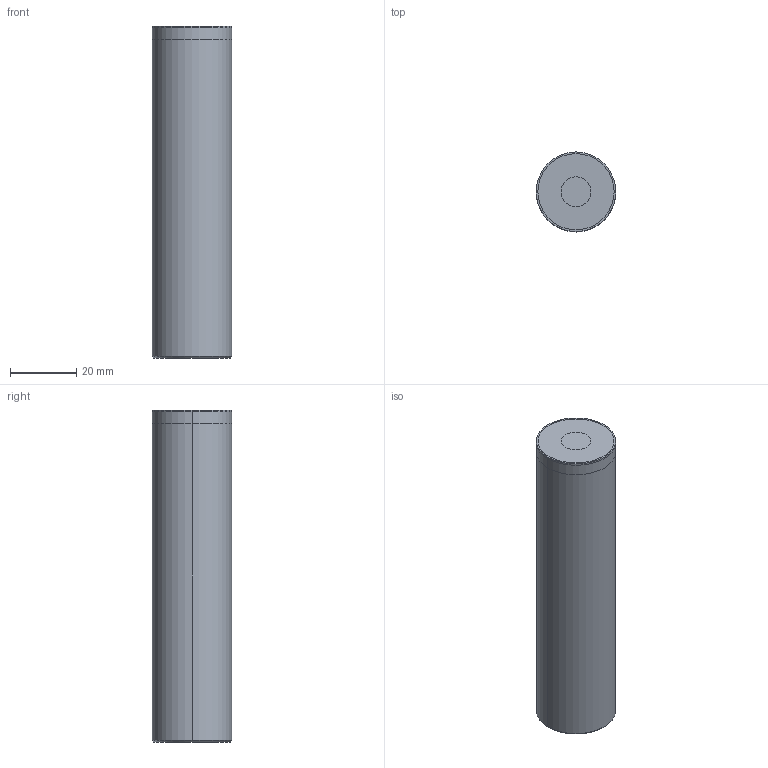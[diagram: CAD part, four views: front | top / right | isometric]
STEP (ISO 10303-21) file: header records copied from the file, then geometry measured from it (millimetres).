
FILE_DESCRIPTION (( 'STEP AP214' ), '1' );
FILE_NAME ('BruyRubio_BRSP_24_X_100.STEP', '2020-01-15T07:47:01', ( '' ), ( '' ), 'SwSTEP 2.0', 'SolidWorks 2017', '' );
FILE_SCHEMA (( 'AUTOMOTIVE_DESIGN' ));
Length unit declared in the file: millimetre
Products named in the file (3): BruyRubio_BRSP_24_X_100; Einbauraum_39f0a4; BRSP 24 X 100_c3e4b6
Assembly tree (2 placements, depth 2):
  BruyRubio_BRSP_24_X_100
    Einbauraum_39f0a4
    BRSP 24 X 100_c3e4b6
Bounding box: 24 x 24 x 100.08 mm (x, y, z)
Volume: 39585.2 mm3; surface area: 12474.1 mm2
Topology: 2 solids, 2 shells, 17 faces, 32 edges, 20 vertices
Faces by surface type: cylinder 8, plane 5, cone 4
Entity records: 735 total; most frequent: DIRECTION 96, CARTESIAN_POINT 74, ORIENTED_EDGE 64, AXIS2_PLACEMENT_3D 42, EDGE_CURVE 32, UNCERTAINTY_MEASURE_WITH_UNIT 24, FILL_AREA_STYLE 21, MECHANICAL_DESIGN_GEOMETRIC_PRESENTATION_REPRESENTATION 21
